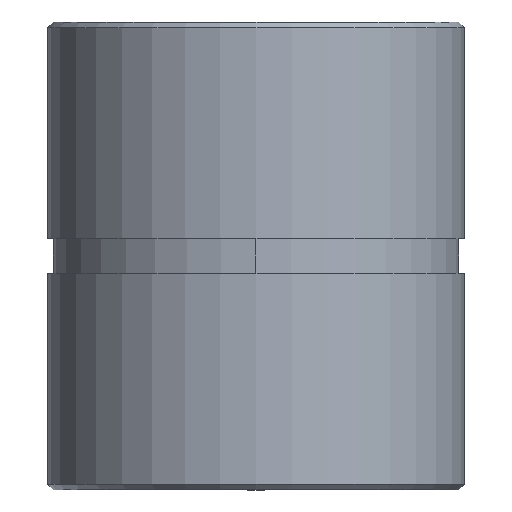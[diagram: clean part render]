
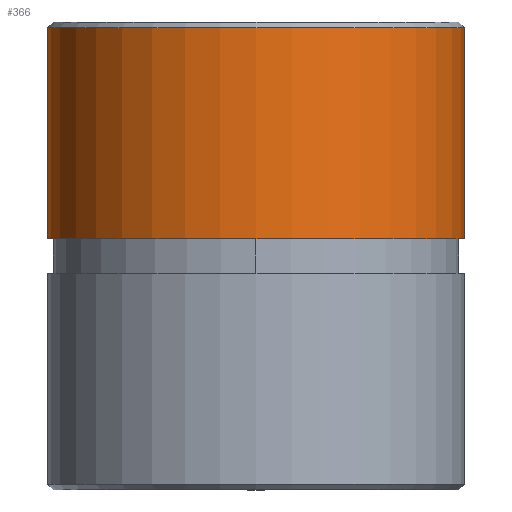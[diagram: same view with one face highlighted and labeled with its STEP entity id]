
A CAD part, front view. The second image highlights one B-rep face of the part: STEP entity #366.
In plain terms, the highlighted cylindrical face has radius 36.5 mm (diameter 73 mm), a partial arc.
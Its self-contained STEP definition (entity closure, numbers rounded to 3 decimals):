
#221=CARTESIAN_POINT('Vertex',(-36.5,0.,40.)) ;
#224=CARTESIAN_POINT('Axis2P3D Location',(0.,0.,40.)) ;
#228=CARTESIAN_POINT('Vertex',(36.5,0.,40.)) ;
#336=CARTESIAN_POINT('Axis2P3D Location',(0.,0.,0.)) ;
#341=CARTESIAN_POINT('Line Origine',(36.5,0.,0.)) ;
#345=CARTESIAN_POINT('Vertex',(36.5,0.,3.)) ;
#348=CARTESIAN_POINT('Line Origine',(-36.5,0.,0.)) ;
#352=CARTESIAN_POINT('Vertex',(-36.5,0.,3.)) ;
#355=CARTESIAN_POINT('Axis2P3D Location',(0.,0.,3.)) ;
#343=VECTOR('Line Direction',#342,1.) ;
#350=VECTOR('Line Direction',#349,1.) ;
#225=DIRECTION('Axis2P3D Direction',(0.,0.,1.)) ;
#337=DIRECTION('Axis2P3D Direction',(0.,0.,1.)) ;
#338=DIRECTION('Axis2P3D XDirection',(1.,0.,0.)) ;
#342=DIRECTION('Vector Direction',(0.,0.,1.)) ;
#349=DIRECTION('Vector Direction',(0.,0.,1.)) ;
#356=DIRECTION('Axis2P3D Direction',(0.,0.,1.)) ;
#226=AXIS2_PLACEMENT_3D('Circle Axis2P3D',#224,#225,$) ;
#339=AXIS2_PLACEMENT_3D('Cylinder Axis2P3D',#336,#337,#338) ;
#357=AXIS2_PLACEMENT_3D('Circle Axis2P3D',#355,#356,$) ;
#344=LINE('Line',#341,#343) ;
#351=LINE('Line',#348,#350) ;
#227=CIRCLE('generated circle',#226,36.5) ;
#358=CIRCLE('generated circle',#357,36.5) ;
#340=CYLINDRICAL_SURFACE('generated cylinder',#339,36.5) ;
#230=EDGE_CURVE('',#222,#229,#227,.T.) ;
#347=EDGE_CURVE('',#346,#229,#344,.T.) ;
#354=EDGE_CURVE('',#353,#222,#351,.T.) ;
#359=EDGE_CURVE('',#353,#346,#358,.T.) ;
#360=EDGE_LOOP('',(#361,#362,#363,#364)) ;
#361=ORIENTED_EDGE('',*,*,#347,.T.) ;
#362=ORIENTED_EDGE('',*,*,#230,.F.) ;
#363=ORIENTED_EDGE('',*,*,#354,.F.) ;
#364=ORIENTED_EDGE('',*,*,#359,.T.) ;
#222=VERTEX_POINT('',#221) ;
#229=VERTEX_POINT('',#228) ;
#346=VERTEX_POINT('',#345) ;
#353=VERTEX_POINT('',#352) ;
#366=ADVANCED_FACE('PartBody',(#365),#340,.T.) ;
#365=FACE_OUTER_BOUND('',#360,.T.) ;
